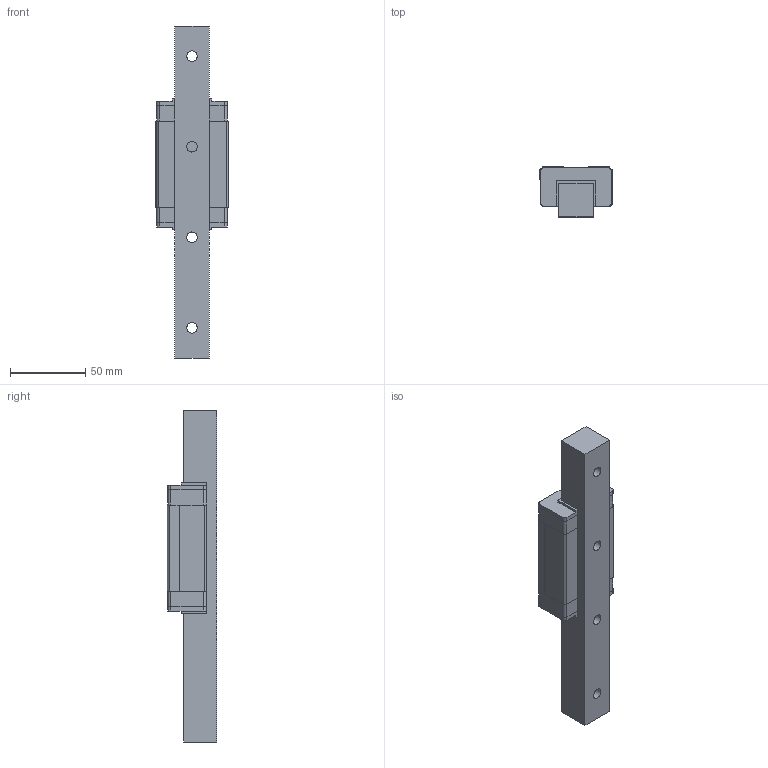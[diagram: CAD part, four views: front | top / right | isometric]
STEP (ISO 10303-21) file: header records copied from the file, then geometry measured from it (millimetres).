
FILE_DESCRIPTION((''),'2;1');
FILE_NAME('E:\PDF郪磁芞\DFS-B\DFS25B.STP','2018-01-31T12:48:55',(''),(''),'STEP Write','Mastercam V9 ... CNC Software, Inc.','');
FILE_SCHEMA(('CONFIG_CONTROL_DESIGN'));
Length unit declared in the file: millimetre
Bounding box: 48 x 33 x 220 mm (x, y, z)
Volume: 178040.5 mm3; surface area: 46815.2 mm2
Topology: 6 solids, 6 shells, 110 faces, 502 edges, 632 vertices
Faces by surface type: plane 82, cylinder 28
Full cylindrical faces by diameter (mm): 5.5 x4, 7 x4, 11 x4
Entity records: 4700 total; most frequent: CARTESIAN_POINT 1042, DIRECTION 808, ORIENTED_EDGE 516, VECTOR 368, LINE 368, EDGE_CURVE 258, TRIMMED_CURVE 220, AXIS2_PLACEMENT_3D 220
